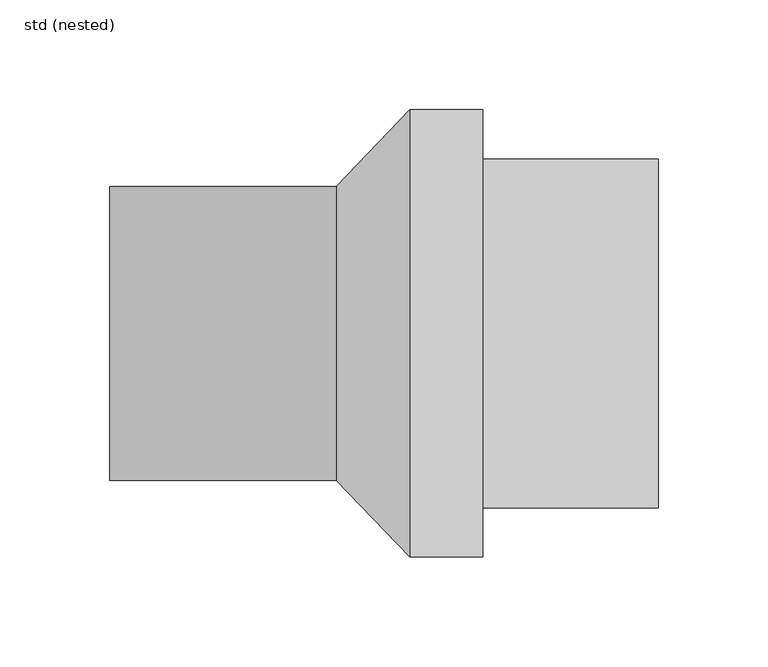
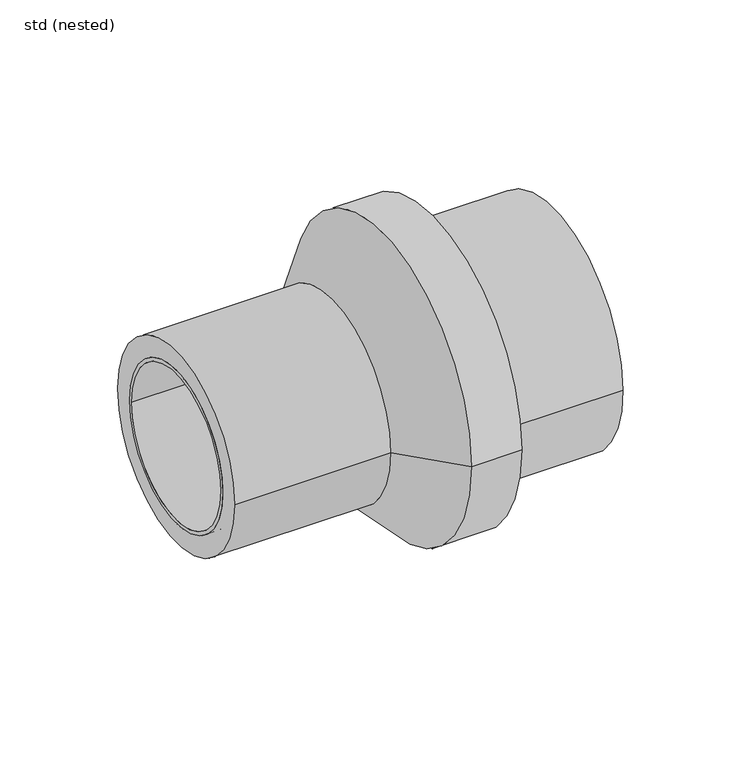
"""IFC4 building model written with IfcOpenShell, lengths in millimetres: pipe fitting geometry, ZZZ_do not use_PIF_ST_WPB_GM-X compound pipe reducer_ACO : std (nested)."""

from ifc_helpers import new_model, si_unit, point, frame, origin, origin_2d, place, context, project, spatial, polyline, circle_curve, trimmed, segment, composite_curve, outline, extrude, source, transform, mapped, element, save
from ifc_brep_helpers import plane_surface, cylinder_surface, revolved_surface, advanced_brep


def std_nested_f2eee662(model_context):
    return source(origin(), model_context, "Body", "SolidModel", [
        advanced_brep(
        [(-241.7, 59.0, 0.0), (-213.0, 59.0, 0.0), (-213.0, -59.0, 0.0), (-241.7, -59.0, 0.0), (-250.0, -53.5, 0.0), (-250.0, 53.5, 0.0), (-250.0, 51.0, 0.0), (-250.0, -51.0, 0.0), (-180.0, -53.5, 0.0), (-180.0, 53.5, 0.0), (-180.0, -51.0, 0.0), (-180.0, 51.0, 0.0), (-213.0, -53.5, 0.0), (-213.0, 53.5, 0.0), (-241.7, 53.5, 0.0), (-241.7, -53.5, 0.0)],
        [
            (0, 1),
            (1, 2, circle_curve(frame((-213.0, 0.0, 0.0), z_axis=(-1.0, 0.0, 0.0), x_axis=(0.0, 1.0, 0.0)), 59.0)),
            (2, 3),
            (3, 0, circle_curve(frame((-241.7, 0.0, 0.0), z_axis=(1.0, 0.0, 0.0), x_axis=(0.0, 1.0, 0.0)), 59.0)),
            (2, 1, circle_curve(frame((-213.0, 0.0, 0.0), z_axis=(-1.0, 0.0, 0.0), x_axis=(0.0, 1.0, 0.0)), 59.0)),
            (0, 3, circle_curve(frame((-241.7, 0.0, 0.0), z_axis=(1.0, 0.0, 0.0), x_axis=(0.0, 1.0, 0.0)), 59.0)),
            (4, 5, circle_curve(frame((-250.0, 0.0, 0.0), z_axis=(-1.0, 0.0, 0.0), x_axis=(0.0, 1.0, 0.0)), 53.5)),
            (5, 4, circle_curve(frame((-250.0, 0.0, 0.0), z_axis=(-1.0, 0.0, 0.0), x_axis=(0.0, 1.0, 0.0)), 53.5)),
            (6, 7, circle_curve(frame((-250.0, 0.0, 0.0), z_axis=(1.0, 0.0, 0.0), x_axis=(0.0, 1.0, 0.0)), 51.0)),
            (7, 6, circle_curve(frame((-250.0, 0.0, 0.0), z_axis=(1.0, 0.0, 0.0), x_axis=(0.0, 1.0, 0.0)), 51.0)),
            (8, 9, circle_curve(frame((-180.0, 0.0, 0.0), z_axis=(1.0, 0.0, 0.0), x_axis=(0.0, 1.0, 0.0)), 53.5)),
            (9, 8, circle_curve(frame((-180.0, 0.0, 0.0), z_axis=(1.0, 0.0, 0.0), x_axis=(0.0, 1.0, 0.0)), 53.5)),
            (10, 11, circle_curve(frame((-180.0, 0.0, 0.0), z_axis=(-1.0, 0.0, 0.0), x_axis=(0.0, 1.0, 0.0)), 51.0)),
            (11, 10, circle_curve(frame((-180.0, 0.0, 0.0), z_axis=(-1.0, 0.0, 0.0), x_axis=(0.0, 1.0, 0.0)), 51.0)),
            (8, 12),
            (12, 13, circle_curve(frame((-213.0, 0.0, 0.0), z_axis=(1.0, 0.0, 0.0), x_axis=(0.0, 1.0, 0.0)), 53.5)),
            (13, 9),
            (5, 14),
            (14, 15, circle_curve(frame((-241.7, 0.0, 0.0), z_axis=(-1.0, 0.0, 0.0), x_axis=(0.0, 1.0, 0.0)), 53.5)),
            (15, 4),
            (15, 14, circle_curve(frame((-241.7, 0.0, 0.0), z_axis=(-1.0, 0.0, 0.0), x_axis=(0.0, 1.0, 0.0)), 53.5)),
            (13, 12, circle_curve(frame((-213.0, 0.0, 0.0), z_axis=(1.0, 0.0, 0.0), x_axis=(0.0, 1.0, 0.0)), 53.5)),
            (7, 10),
            (11, 6),
        ],
        [
            cylinder_surface(frame((-213.0, 0.0, 0.0), z_axis=(-1.0, 0.0, 0.0), x_axis=(0.0, 1.0, 0.0)), 59.0),
            plane_surface(frame((-250.0, 53.5, 0.0), z_axis=(-1.0, 0.0, 0.0), x_axis=(0.0, 0.0, 1.0))),
            plane_surface(frame((-180.0, 53.5, 0.0), z_axis=(1.0, 0.0, 0.0), x_axis=(0.0, 0.0, -1.0))),
            cylinder_surface(frame((-180.0, 0.0, 0.0), z_axis=(-1.0, 0.0, 0.0), x_axis=(0.0, 1.0, 0.0)), 53.5),
            revolved_surface(polyline([(-250.0, 51.0, 0.0), (-180.0, 51.0, 0.0)]), (-180.0, 0.0, 0.0), (-1.0, 0.0, 0.0)),
            plane_surface(frame((-241.7, 59.0, 0.0), z_axis=(-1.0, 0.0, 0.0), x_axis=(0.0, 0.0, 1.0))),
            plane_surface(frame((-213.0, 59.0, 0.0), z_axis=(1.0, 0.0, 0.0), x_axis=(0.0, 0.0, -1.0))),
        ],
        [
            (0, [[1, 2, 3, 4]]),
            (0, [[-3, 5, -1, 6]]),
            (1, [[7, 8], [9, 10]]),
            (2, [[11, 12], [13, 14]]),
            (3, [[15, 16, 17, -11]]),
            (3, [[18, 19, 20, -8]]),
            (3, [[-20, 21, -18, -7]]),
            (3, [[-17, 22, -15, -12]]),
            (4, [[-10, 23, -14, 24]]),
            (4, [[-13, -23, -9, -24]]),
            (5, [[-6, -4], [-21, -19]]),
            (6, [[-2, -5], [-22, -16]]),
        ],
    ),
        advanced_brep(
        [(-250.0, 67.0, 0.0), (-250.0, -67.0, 0.0), (-250.0, -53.5, 0.0), (-250.0, 53.5, 0.0), (-146.6666667, -67.0, 0.0), (-146.6666667, 67.0, 0.0), (-180.0, 53.5, 0.0), (-180.0, -53.5, 0.0), (-113.3333333, 102.0, 0.0), (-113.3333333, -102.0, 0.0), (-80.0, -102.0, 0.0), (-80.0, 102.0, 0.0)],
        [
            (0, 1, circle_curve(frame((-250.0, 0.0, 0.0), z_axis=(-1.0, 0.0, 0.0), x_axis=(0.0, -1.0, 0.0)), 67.0)),
            (1, 0, circle_curve(frame((-250.0, 0.0, 0.0), z_axis=(-1.0, 0.0, 0.0), x_axis=(0.0, -1.0, 0.0)), 67.0)),
            (2, 3, circle_curve(frame((-250.0, 0.0, 0.0), z_axis=(1.0, 0.0, 0.0), x_axis=(0.0, -1.0, 0.0)), 53.5)),
            (3, 2, circle_curve(frame((-250.0, 0.0, 0.0), z_axis=(1.0, 0.0, 0.0), x_axis=(0.0, -1.0, 0.0)), 53.5)),
            (1, 4),
            (4, 5, circle_curve(frame((-146.6666667, 0.0, 0.0), z_axis=(-1.0, 0.0, 0.0), x_axis=(0.0, -1.0, 0.0)), 67.0)),
            (5, 0),
            (5, 4, circle_curve(frame((-146.6666667, 0.0, 0.0), z_axis=(-1.0, 0.0, 0.0), x_axis=(0.0, -1.0, 0.0)), 67.0)),
            (6, 7, circle_curve(frame((-180.0, 0.0, 0.0), z_axis=(-1.0, 0.0, 0.0), x_axis=(0.0, -1.0, 0.0)), 53.5)),
            (7, 6, circle_curve(frame((-180.0, 0.0, 0.0), z_axis=(-1.0, 0.0, 0.0), x_axis=(0.0, -1.0, 0.0)), 53.5)),
            (7, 2),
            (3, 6),
            (5, 8),
            (8, 9, circle_curve(frame((-113.3333333, 0.0, 0.0), z_axis=(-1.0, 0.0, 0.0), x_axis=(0.0, 1.0, 0.0)), 102.0)),
            (9, 4),
            (9, 8, circle_curve(frame((-113.3333333, 0.0, 0.0), z_axis=(-1.0, 0.0, 0.0), x_axis=(0.0, -1.0, 0.0)), 102.0)),
            (10, 11, circle_curve(frame((-80.0, 0.0, 0.0), z_axis=(1.0, 0.0, 0.0), x_axis=(0.0, 1.0, 0.0)), 102.0)),
            (11, 10, circle_curve(frame((-80.0, 0.0, 0.0), z_axis=(1.0, 0.0, 0.0), x_axis=(0.0, 1.0, 0.0)), 102.0)),
            (11, 8),
            (9, 10),
        ],
        [
            plane_surface(frame((-250.0, -67.0, 0.0), z_axis=(-1.0, 0.0, 0.0), x_axis=(0.0, 0.0, -1.0))),
            cylinder_surface(frame((-146.6666667, 0.0, 0.0), z_axis=(-1.0, 0.0, 0.0), x_axis=(0.0, -1.0, 0.0)), 67.0),
            plane_surface(frame((-180.0, -53.5, 0.0), z_axis=(-1.0, 0.0, 0.0), x_axis=(0.0, 0.0, 1.0))),
            revolved_surface(polyline([(-250.0, -53.5, 0.0), (-180.0, -53.5, 0.0)]), (-180.0, 0.0, 0.0), (-1.0, 0.0, 0.0)),
            revolved_surface(polyline([(-146.6666667, 66.99999995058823, 0.0), (-113.3333333, 102.0, 0.0)]), (-210.4761905, 0.0, 0.0), (1.0, 0.0, 0.0)),
            revolved_surface(polyline([(-146.6666667, -66.99999995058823, 0.0), (-113.3333333, -102.0, 0.0)]), (-210.4761905, 0.0, 0.0), (1.0, 0.0, 0.0)),
            plane_surface(frame((-80.0, 102.0, 0.0), z_axis=(1.0, 0.0, 0.0), x_axis=(0.0, 0.0, -1.0))),
            cylinder_surface(frame((-113.3333333, 0.0, 0.0), z_axis=(1.0, 0.0, 0.0), x_axis=(0.0, 1.0, 0.0)), 102.0),
        ],
        [
            (0, [[1, 2], [3, 4]]),
            (1, [[5, 6, 7, -2]]),
            (1, [[-7, 8, -5, -1]]),
            (2, [[9, 10]]),
            (3, [[11, -4, 12, -10]]),
            (3, [[-12, -3, -11, -9]]),
            (4, [[-8, 13, 14, 15]]),
            (5, [[16, -13, -6, -15]]),
            (6, [[17, 18]]),
            (7, [[19, -16, 20, -18]]),
            (7, [[-20, -14, -19, -17]]),
        ],
    ),
        extrude(outline(composite_curve([segment(trimmed(circle_curve(origin_2d(), 79.5), [point((-79.5, 0.0))], [point((79.5, 0.0))], False, "CARTESIAN"), True, "CONTINUOUS"), segment(trimmed(circle_curve(origin_2d(), 79.5), [point((79.5, 0.0))], [point((-79.5, 0.0))], False, "CARTESIAN"), True, "CONTINUOUS")], self_intersect=False)), frame((-80.0, 0.0, 0.0), z_axis=(1.0, 0.0, 0.0), x_axis=(0.0, 1.0, 0.0)), (0.0, 0.0, 1.0), 80.0),
    ])


if __name__ == "__main__":
    model = new_model("IFC4")
    model_context = context("Model", 3, world=origin())
    ifc_project = project(units=[si_unit("LENGTHUNIT", "METRE", prefix="MILLI")], contexts=[model_context])
    site = spatial("IfcSite", under=ifc_project)
    building = spatial("IfcBuilding", under=site)
    placement = place(None, origin())
    std_nested_shape = std_nested_f2eee662(model_context)
    element("IfcPipeFitting", 1, ObjectType="ZZZ_do not use_PIF_ST_WPB_GM-X compound pipe reducer_ACO : std (nested)", at=placement, inside=building, context=model_context, shape_type="MappedRepresentation", body=[
        mapped(std_nested_shape, transform((0.0, 0.0, 0.0), x_axis=(1.0, 0.0, 0.0), y_axis=(0.0, 1.0, 0.0), z_axis=(0.0, 0.0, 1.0))),
    ])
    save(model, "model.ifc")
